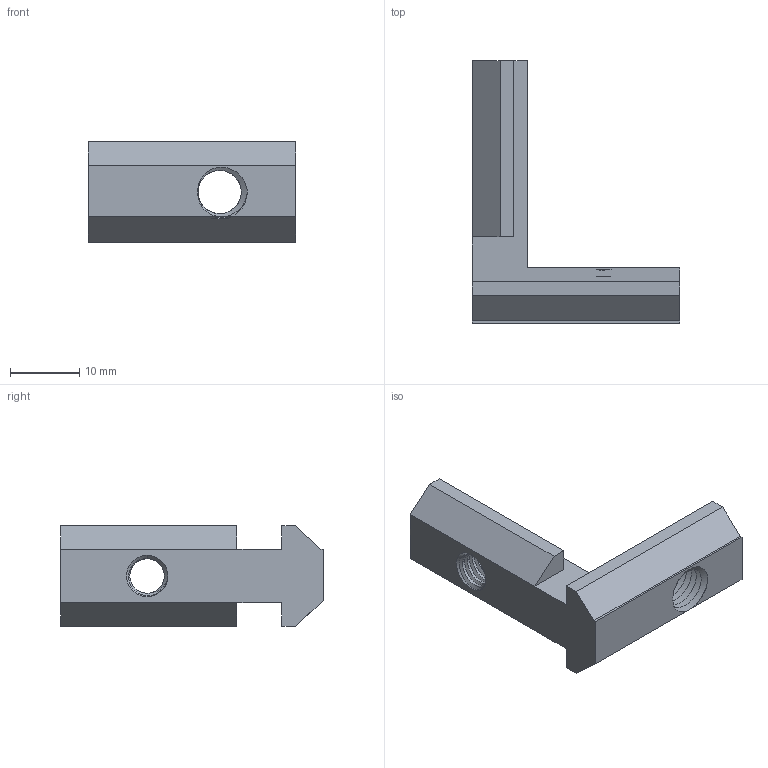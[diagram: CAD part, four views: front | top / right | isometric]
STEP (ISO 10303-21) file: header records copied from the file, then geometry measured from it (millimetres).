
FILE_DESCRIPTION (( 'STEP AP203' ), '1' );
FILE_NAME ('76-CE-IE4040-8.STEP', '2015-07-09T08:26:31', ( '' ), ( '' ), 'SwSTEP 2.0', 'SolidWorks 2013', '' );
FILE_SCHEMA (( 'CONFIG_CONTROL_DESIGN' ));
Length unit declared in the file: millimetre
Products named in the file (1): 76-CE-IE4040-8
Bounding box: 30 x 38 x 14.5 mm (x, y, z)
Volume: 4695 mm3; surface area: 3065.8 mm2
Topology: 1 solids, 1 shells, 49 faces, 150 edges, 98 vertices
Faces by surface type: plane 23, cylinder 16, cone 6, bspline 4
Entity records: 4653 total; most frequent: CARTESIAN_POINT 3374, ORIENTED_EDGE 300, DIRECTION 192, EDGE_CURVE 150, VERTEX_POINT 98, LINE 80, VECTOR 80, EDGE_LOOP 58
